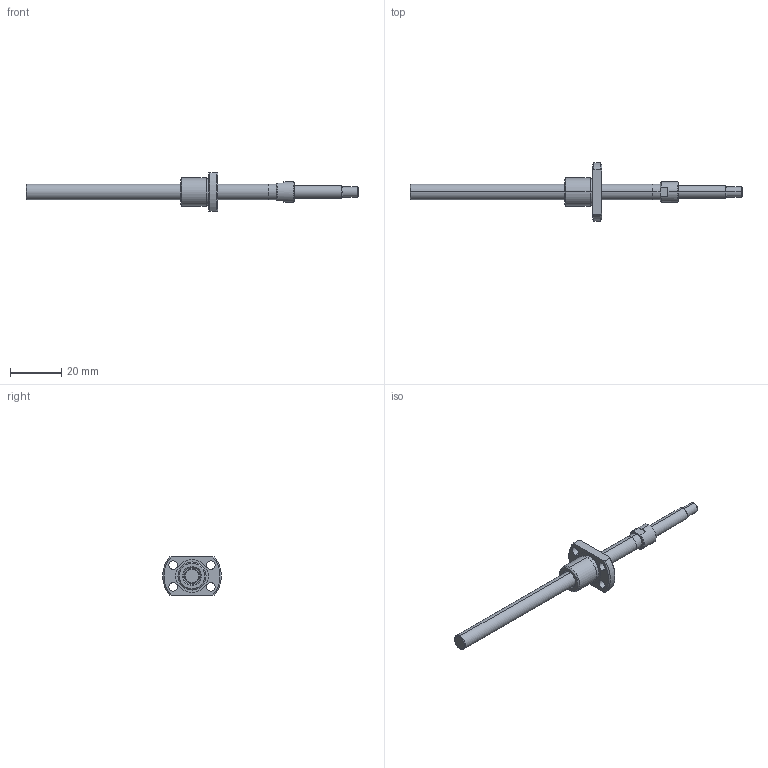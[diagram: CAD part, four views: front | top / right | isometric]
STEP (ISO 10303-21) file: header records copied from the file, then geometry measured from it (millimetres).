
FILE_DESCRIPTION (( 'STEP AP214' ), '1' );
FILE_NAME ('BS0601K-3D.STEP', '2014-03-05T15:08:59', ( '' ), ( '' ), 'SwSTEP 2.0', 'SolidWorks 2012', '' );
FILE_SCHEMA (( 'AUTOMOTIVE_DESIGN' ));
Length unit declared in the file: millimetre
Products named in the file (3): BS0601K-3D; BS0601KŽ²; BS0601Kナット
Assembly tree (2 placements, depth 2):
  BS0601K-3D
    BS0601KŽ²
    BS0601Kナット
Bounding box: 130 x 22.93 x 15 mm (x, y, z)
Volume: 7177 mm3; surface area: 5672.5 mm2
Topology: 3 solids, 3 shells, 69 faces, 154 edges, 98 vertices
Faces by surface type: cylinder 30, cone 20, plane 19
Entity records: 2091 total; most frequent: DIRECTION 374, CARTESIAN_POINT 362, ORIENTED_EDGE 308, AXIS2_PLACEMENT_3D 158, EDGE_CURVE 154, VERTEX_POINT 98, EDGE_LOOP 86, CIRCLE 84
